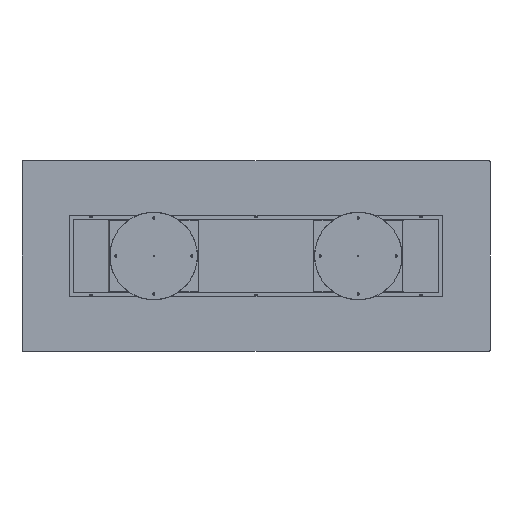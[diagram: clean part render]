
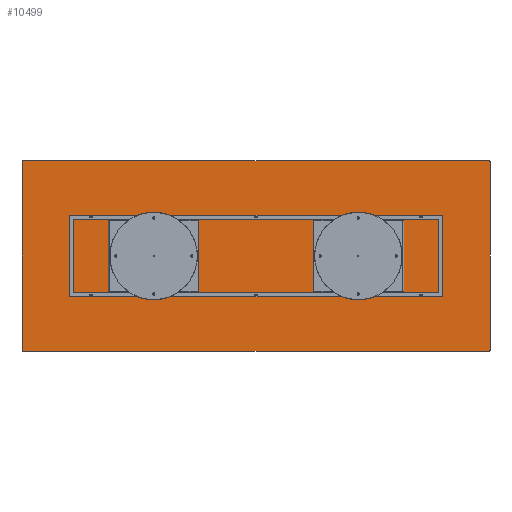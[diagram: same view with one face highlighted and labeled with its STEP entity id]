
A CAD part, front view. The second image highlights one B-rep face of the part: STEP entity #10499.
In plain terms, the highlighted planar face has unit normal (0, -1, 0).
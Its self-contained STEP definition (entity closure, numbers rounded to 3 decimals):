
#628 = DIRECTION ( 'NONE',  ( 0., 0., 1. ) ) ;
#725 = ORIENTED_EDGE ( 'NONE', *, *, #8702, .T. ) ;
#855 = EDGE_CURVE ( 'NONE', #1053, #10136, #10743, .T. ) ;
#1031 = EDGE_LOOP ( 'NONE', ( #9609, #725, #1136, #6545, #1283, #7227, #3511, #2920 ) ) ;
#1053 = VERTEX_POINT ( 'NONE', #10916 ) ;
#1136 = ORIENTED_EDGE ( 'NONE', *, *, #9588, .F. ) ;
#1220 = VERTEX_POINT ( 'NONE', #11215 ) ;
#1283 = ORIENTED_EDGE ( 'NONE', *, *, #1523, .F. ) ;
#1523 = EDGE_CURVE ( 'NONE', #6431, #1220, #1553, .T. ) ;
#1553 = LINE ( 'NONE', #10955, #8862 ) ;
#1560 = DIRECTION ( 'NONE',  ( 1., 0., 0. ) ) ;
#1897 = CARTESIAN_POINT ( 'NONE',  ( 1595., 0., 645. ) ) ;
#2102 = EDGE_CURVE ( 'NONE', #1053, #9041, #4577, .T. ) ;
#2358 = CARTESIAN_POINT ( 'NONE',  ( 1600., 0., 645. ) ) ;
#2491 = DIRECTION ( 'NONE',  ( 0., -1., 0. ) ) ;
#2647 = AXIS2_PLACEMENT_3D ( 'NONE', #6355, #10226, #8319 ) ;
#2700 = DIRECTION ( 'NONE',  ( 0., -1., 0. ) ) ;
#2903 = AXIS2_PLACEMENT_3D ( 'NONE', #1897, #2700, #8466 ) ;
#2920 = ORIENTED_EDGE ( 'NONE', *, *, #2102, .T. ) ;
#2999 = AXIS2_PLACEMENT_3D ( 'NONE', #5609, #8359, #11542 ) ;
#3055 = CIRCLE ( 'NONE', #2647, 5. ) ;
#3171 = CARTESIAN_POINT ( 'NONE',  ( -1595., 0., -645. ) ) ;
#3499 = CIRCLE ( 'NONE', #2903, 5. ) ;
#3511 = ORIENTED_EDGE ( 'NONE', *, *, #855, .F. ) ;
#3553 = FACE_OUTER_BOUND ( 'NONE', #1031, .T. ) ;
#3607 = AXIS2_PLACEMENT_3D ( 'NONE', #3171, #2491, #7093 ) ;
#3629 = AXIS2_PLACEMENT_3D ( 'NONE', #6495, #4608, #6372 ) ;
#4498 = VERTEX_POINT ( 'NONE', #8416 ) ;
#4577 = CIRCLE ( 'NONE', #2999, 5. ) ;
#4608 = DIRECTION ( 'NONE',  ( 0., 1., 0. ) ) ;
#4784 = CIRCLE ( 'NONE', #3607, 5. ) ;
#5276 = CARTESIAN_POINT ( 'NONE',  ( 1600., 0., -645. ) ) ;
#5609 = CARTESIAN_POINT ( 'NONE',  ( 1595., 0., -645. ) ) ;
#6268 = CARTESIAN_POINT ( 'NONE',  ( -1600., 0., -645. ) ) ;
#6355 = CARTESIAN_POINT ( 'NONE',  ( -1595., 0., 645. ) ) ;
#6372 = DIRECTION ( 'NONE',  ( 0., 0., 1. ) ) ;
#6431 = VERTEX_POINT ( 'NONE', #6268 ) ;
#6472 = CARTESIAN_POINT ( 'NONE',  ( -1600., 0., 650. ) ) ;
#6495 = CARTESIAN_POINT ( 'NONE',  ( 0., 0., 0. ) ) ;
#6545 = ORIENTED_EDGE ( 'NONE', *, *, #11014, .T. ) ;
#7019 = CARTESIAN_POINT ( 'NONE',  ( -1595., 0., 650. ) ) ;
#7093 = DIRECTION ( 'NONE',  ( 0., 0., 1. ) ) ;
#7227 = ORIENTED_EDGE ( 'NONE', *, *, #9421, .T. ) ;
#7591 = VERTEX_POINT ( 'NONE', #7019 ) ;
#8239 = CARTESIAN_POINT ( 'NONE',  ( -1595., 0., -650. ) ) ;
#8319 = DIRECTION ( 'NONE',  ( 0., 0., 1. ) ) ;
#8359 = DIRECTION ( 'NONE',  ( 0., -1., 0. ) ) ;
#8403 = PLANE ( 'NONE',  #3629 ) ;
#8416 = CARTESIAN_POINT ( 'NONE',  ( 1595., 0., 650. ) ) ;
#8466 = DIRECTION ( 'NONE',  ( 0., 0., 1. ) ) ;
#8702 = EDGE_CURVE ( 'NONE', #11395, #4498, #3499, .T. ) ;
#8862 = VECTOR ( 'NONE', #628, 1000. ) ;
#9041 = VERTEX_POINT ( 'NONE', #5276 ) ;
#9421 = EDGE_CURVE ( 'NONE', #6431, #10136, #4784, .T. ) ;
#9588 = EDGE_CURVE ( 'NONE', #7591, #4498, #11994, .T. ) ;
#9609 = ORIENTED_EDGE ( 'NONE', *, *, #11969, .F. ) ;
#9724 = VECTOR ( 'NONE', #10004, 1000. ) ;
#9749 = CARTESIAN_POINT ( 'NONE',  ( -1600., 0., -650. ) ) ;
#10004 = DIRECTION ( 'NONE',  ( 0., 0., -1. ) ) ;
#10136 = VERTEX_POINT ( 'NONE', #8239 ) ;
#10226 = DIRECTION ( 'NONE',  ( 0., -1., 0. ) ) ;
#10273 = VECTOR ( 'NONE', #1560, 1000. ) ;
#10499 = ADVANCED_FACE ( 'NONE', ( #3553 ), #8403, .F. ) ;
#10610 = DIRECTION ( 'NONE',  ( -1., 0., 0. ) ) ;
#10619 = VECTOR ( 'NONE', #10610, 1000. ) ;
#10743 = LINE ( 'NONE', #9749, #10619 ) ;
#10916 = CARTESIAN_POINT ( 'NONE',  ( 1595., 0., -650. ) ) ;
#10955 = CARTESIAN_POINT ( 'NONE',  ( -1600., 0., -650. ) ) ;
#11014 = EDGE_CURVE ( 'NONE', #7591, #1220, #3055, .T. ) ;
#11052 = CARTESIAN_POINT ( 'NONE',  ( 1600., 0., -650. ) ) ;
#11215 = CARTESIAN_POINT ( 'NONE',  ( -1600., 0., 645. ) ) ;
#11395 = VERTEX_POINT ( 'NONE', #2358 ) ;
#11542 = DIRECTION ( 'NONE',  ( 0., 0., 1. ) ) ;
#11854 = LINE ( 'NONE', #11052, #9724 ) ;
#11969 = EDGE_CURVE ( 'NONE', #11395, #9041, #11854, .T. ) ;
#11994 = LINE ( 'NONE', #6472, #10273 ) ;
